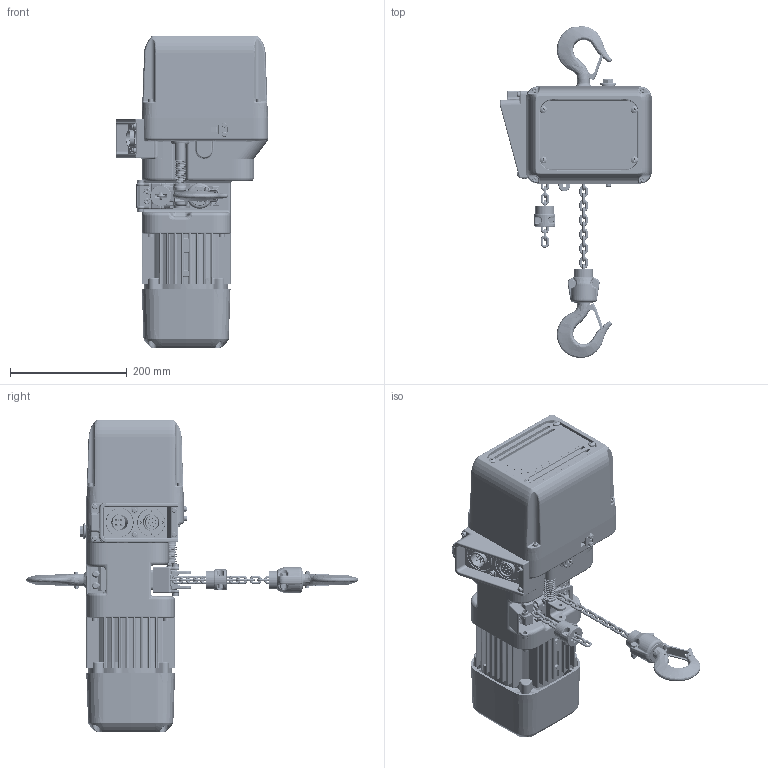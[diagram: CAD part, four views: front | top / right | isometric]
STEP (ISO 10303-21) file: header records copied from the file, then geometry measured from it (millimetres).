
FILE_DESCRIPTION (( 'STEP AP214' ), '1' );
FILE_NAME ('NER2001HD.STEP', '2026-08-03T19:32:25', ( '' ), ( '' ), 'SwSTEP 2.0', 'SolidWorks 2026', '' );
FILE_SCHEMA (( 'AUTOMOTIVE_DESIGN' ));
Length unit declared in the file: millimetre
Products named in the file (54): ER1BS9535; 9091234_B18.3.1M - 5 x 0.8 x 45 Hex SHCS -- 22CHX; ES1045003; ER2BS9331; ER2BH9011; ER2BI2104; ER2BI9185_ER2BI9185; ER2CS9123; NER2001HD; pan cross head_am_B18.6.7M - M6 x 1.0 x 16 Type I Cross Recessed PHMS --16N; single coil rectangular section spring washer_bsi_9012711; LCER2003NP (SHAPED); ER2BS9053; J1BY9-0602525_B18.2.3.1M - Hex cap screw, M6 x 1.0 x 25 --25C; ER2BH9015; J1AP24001212; LCER2003NP; ER2CS9511; ES558003; ER2BS9107; ER2CS2564; ER2BS9332; ER1BS9135; ER2BHM03I9A51; ER2CS9001; MS561010; 9091252_B18.3.1M - 6 x 1.0 x 30 Hex SHCS -- 30CHX; ER2CS1001; ER2CS9121; ER2CS9357; J1NA001-20060_B18.2.4.1M - Hex nut, Style 1,  M6 x 1 --D-C; ES127005S; ER2BS9101; ER2CS1002; ER2BH1011; ER2BI9103; 9679708_9679708; ER2CS2523; E3S111003; Spring Lock Washer for M4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
Assembly tree (127 placements, depth 4):
  NER2001HD
    ER2BS9101
    ER2BS9105
    ER2BS9107
    9091234_B18.3.1M - 5 x 0.8 x 45 Hex SHCS -- 22CHX  x4
    9091252_B18.3.1M - 6 x 1.0 x 30 Hex SHCS -- 30CHX  x4
    E3S111003  x2
    E3S112003  x2
    ER2CS1001
      ER2CS9001
      ER2CS1002
    ER2CS9121  x2
    ER2CS9186
    ER2CS9123
    socket head cap screw_am_B18.3.1M - 6 x 1.0 x 12 Hex SHCS -- 12CHX
    ER2BS9331
    ER2BS9338
    ER2BS9337
    ER2CS9357
    ER2BH1011
      ER2BH9011
      ER2BH2015
        ER2BH9015  x2
        J1BY9-0602525_B18.2.3.1M - Hex cap screw, M6 x 1.0 x 25 --25C  x2
        J1WS011-20060_Rectangular section spring washer BS 4464 - 16 (Type B)  x2
        J1NA001-20060_B18.2.4.1M - Hex nut, Style 1,  M6 x 1 --D-C  x2
      ER2CS1002
    LCER2003NP
      LCER2003NP  x18
    ER2BS9053  x2
    9091251_9091251  x4
    single coil rectangular section spring washer_bsi_9012711  x4
    ER2CS9511
    ER2CS2523
    ER2CS2564
    LCER2003NP (SHAPED)
      LCER2003NP  x14
    ES1045003
    ER1BS9135
    ES558003  x8
    MS561010  x6
    ES127005S
    ER1BS9535
    M6F554010  x2
    ER2BHM01H9A6
    ER2BI2104
      ER2BI9104_ER2BI9104
      ER2BI9185_ER2BI9185
      J1AP24001212  x4
        Spring Lock Washer for M4
        pan cross head_am_B18.6.7M - M6 x 1.0 x 16 Type I Cross Recessed PHMS --16N
    ER2BI9103
    ER2BS9332
    ER2BHM03I9A51
    9679708_9679708  x4
    9091233_9091233  x4
Bounding box: 260 x 568.39 x 535.57 mm (x, y, z)
Volume: 11329087.9 mm3; surface area: 1079476.8 mm2
Topology: 139 solids, 139 shells, 5612 faces, 14640 edges, 9339 vertices
Faces by surface type: cylinder 2089, plane 2042, torus 688, bspline 395, cone 334, sphere 64
Entity records: 163161 total; most frequent: CARTESIAN_POINT 58419, ORIENTED_EDGE 21372, DIRECTION 21084, EDGE_CURVE 10686, AXIS2_PLACEMENT_3D 8061, VERTEX_POINT 6940, LINE 4962, VECTOR 4962
